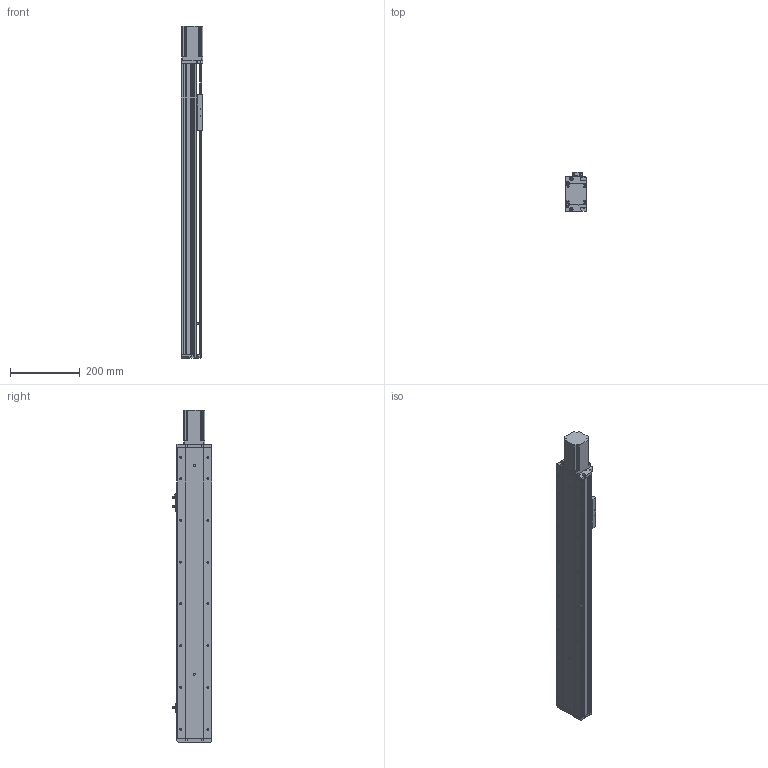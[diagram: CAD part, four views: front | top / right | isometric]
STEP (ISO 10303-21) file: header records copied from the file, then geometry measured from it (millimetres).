
FILE_DESCRIPTION (( 'STEP AP214' ), '1' );
FILE_NAME ('KSD100S-S600-MN-CM.STEP', '2019-08-30T07:11:37', ( '微软用户' ), ( '微软中国' ), 'SwSTEP 2.0', 'SolidWorks 2014', '' );
FILE_SCHEMA (( 'AUTOMOTIVE_DESIGN' ));
Length unit declared in the file: millimetre
Products named in the file (9): 100宽底板半封闭600行程丝杆不带电机座; KSD100S-S600-MN-CM; 侂狟400侜督萇儂; 覜茼え100遵圉猾敕; U倰嫖萇EEㄜSX672; 100宽防尘板丝杆600行程不带电机座; 100宽马达安装板不带电机座; 100宽滚珠螺姆安装板半封闭; 100遵傷啣
Assembly tree (10 placements, depth 2):
  KSD100S-S600-MN-CM
    100宽底板半封闭600行程丝杆不带电机座
    100遵傷啣
    100宽滚珠螺姆安装板半封闭
    100宽马达安装板不带电机座
    100宽防尘板丝杆600行程不带电机座
    U倰嫖萇EEㄜSX672  x3
    覜茼え100遵圉猾敕
    侂狟400侜督萇儂
Bounding box: 62 x 113.7 x 954 mm (x, y, z)
Volume: 2010356 mm3; surface area: 641912.5 mm2
Topology: 11 solids, 11 shells, 1102 faces, 3124 edges, 1977 vertices
Faces by surface type: cylinder 523, plane 460, cone 119
Entity records: 38094 total; most frequent: CARTESIAN_POINT 7716, DIRECTION 5039, ORIENTED_EDGE 4916, EDGE_CURVE 2458, AXIS2_PLACEMENT_3D 1816, VERTEX_POINT 1601, VECTOR 1407, LINE 1407
